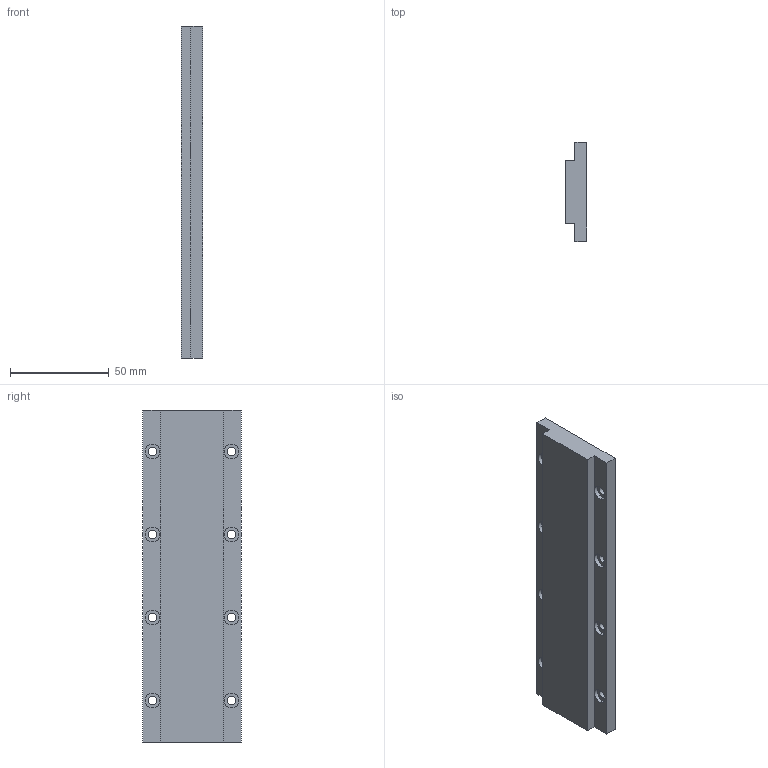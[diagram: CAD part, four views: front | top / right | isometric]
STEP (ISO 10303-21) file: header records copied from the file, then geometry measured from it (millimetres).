
FILE_DESCRIPTION (( 'STEP AP214' ), '1' );
FILE_NAME ('1-WKM30-168.STEP', '2025-09-05T11:40:21', ( '' ), ( '' ), 'SwSTEP 2.0', 'SolidWorks 2016', '' );
FILE_SCHEMA (( 'AUTOMOTIVE_DESIGN' ));
Length unit declared in the file: millimetre
Products named in the file (1): 1-WKM30-168
Bounding box: 10.8 x 50 x 168 mm (x, y, z)
Volume: 75033.2 mm3; surface area: 21912.9 mm2
Topology: 1 solids, 1 shells, 50 faces, 120 edges, 80 vertices
Faces by surface type: cylinder 32, plane 18
Entity records: 1554 total; most frequent: DIRECTION 286, CARTESIAN_POINT 251, ORIENTED_EDGE 240, EDGE_CURVE 120, AXIS2_PLACEMENT_3D 115, VERTEX_POINT 80, EDGE_LOOP 74, CIRCLE 64
